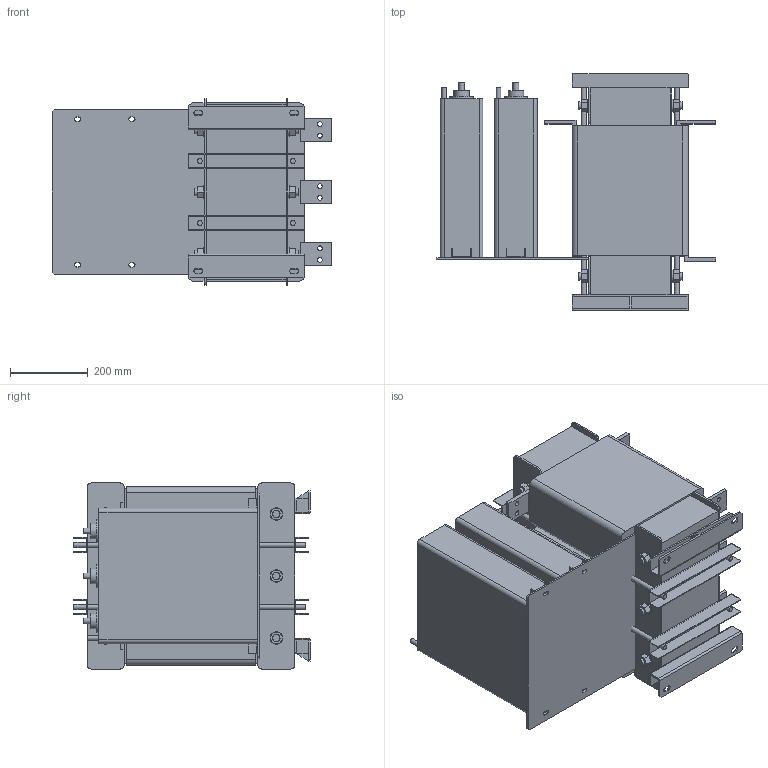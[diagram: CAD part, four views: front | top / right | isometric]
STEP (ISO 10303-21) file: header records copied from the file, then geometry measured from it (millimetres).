
FILE_DESCRIPTION(/* description */ (''),/* implementation_level */ '2;1');
FILE_NAME(/* name */ 'Sin-T6-700.stp',/* time_stamp */ '2025-02-25T11:06:26+04:00',/* author */ ('Лео'),/* organization */ (''),/* preprocessor_version */ 'ST-DEVELOPER v19.2',/* originating_system */ 'Autodesk Inventor 2024',/* authorisation */ '');
FILE_SCHEMA (('AUTOMOTIVE_DESIGN { 1 0 10303 214 3 1 1 }'));
Length unit declared in the file: millimetre
Products named in the file (1): Sin-T6-700
Bounding box: 720 x 610 x 480 mm (x, y, z)
Volume: 95599223.5 mm3; surface area: 3734841.7 mm2
Topology: 26 solids, 26 shells, 647 faces, 1478 edges, 928 vertices
Faces by surface type: plane 501, cylinder 146
Full cylindrical faces by diameter (mm): 12 x20, 13 x12, 15 x6, 19 x12, 32.562 x12, 40 x6, 60 x6
Entity records: 18078 total; most frequent: DIRECTION 3138, CARTESIAN_POINT 3054, ORIENTED_EDGE 2956, EDGE_CURVE 1478, LINE 1114, VECTOR 1114, AXIS2_PLACEMENT_3D 1012, VERTEX_POINT 928
